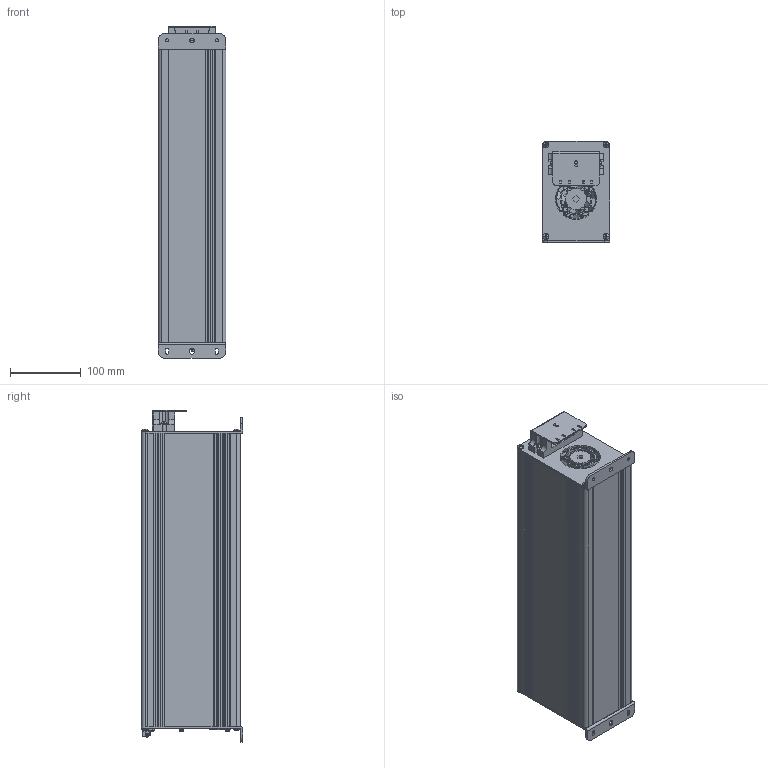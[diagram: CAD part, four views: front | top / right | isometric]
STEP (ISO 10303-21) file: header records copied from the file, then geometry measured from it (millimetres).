
FILE_DESCRIPTION(/* description */ (''),/* implementation_level */ '2;1');
FILE_NAME(/* name */ '',/* time_stamp */ '2026-07-13T09:41:36+09:00',/* author */ ('Administrator'),/* organization */ (''),/* preprocessor_version */ 'ST-DEVELOPER v20.1',/* originating_system */ 'Autodesk Inventor 2026',/* authorisation */ '');
FILE_SCHEMA (('AUTOMOTIVE_DESIGN { 1 0 10303 214 3 1 1 }'));
Products named in the file (1): OLED DV415COM_단순화_1
Bounding box: 95.5 x 142.98 x 469.92 mm (x, y, z)
Volume: 767500.6 mm3; surface area: 555149 mm2
Topology: 9 solids, 9 shells, 5185 faces, 13824 edges, 9035 vertices
Faces by surface type: plane 2995, bspline 1076, cylinder 979, torus 103, sphere 21, cone 11
Full cylindrical faces by diameter (mm): 0.013 x9, 0.457 x2, 0.6 x3, 0.61 x27, 0.635 x9, 0.7 x18, 0.75 x18, 0.85 x3, 0.9 x20, 1 x5, 1.397 x9, 1.5 x4, 2.1 x4, 2.286 x9, 2.4 x2, 2.5 x4, 2.8 x10, 2.9 x2, 2.957 x8, 3 x4, 3.048 x4, 3.4 x5, 3.8 x10, 3.9 x2, 4 x15, 4.3 x4, 4.4 x2, 4.5 x10, 5 x8, 5.4 x4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
Entity records: 186528 total; most frequent: CARTESIAN_POINT 57737, ORIENTED_EDGE 27604, DIRECTION 22248, EDGE_CURVE 13802, VERTEX_POINT 9033, LINE 8850, VECTOR 8850, AXIS2_PLACEMENT_3D 6699
